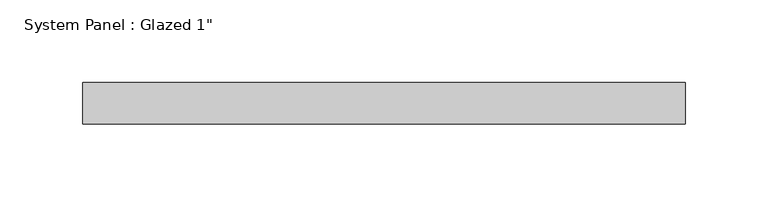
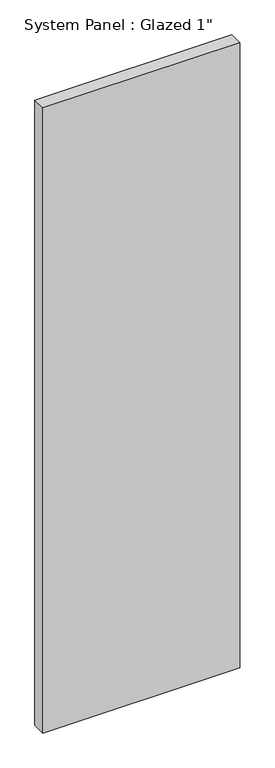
"""IFC4 building model written with IfcOpenShell, lengths in millimetres: plate geometry."""

from ifc_helpers import new_model, si_unit, origin, origin_with_axes, place, context, project, spatial, polyline, outline, extrude, source, transform, mapped, element, save


def plate_85dd41af(model_context):
    return source(origin(), model_context, "Body", "SweptSolid", [
        extrude(outline(polyline([(182.5625, 12.7), (-182.5625, 12.7), (-182.5625, 38.1), (182.5625, 38.1), (182.5625, 12.7)])), origin_with_axes(), (0.0, 0.0, 1.0), 1226.3800169),
    ])


if __name__ == "__main__":
    model = new_model("IFC4")
    model_context = context("Model", 3, world=origin())
    ifc_project = project(units=[si_unit("LENGTHUNIT", "METRE", prefix="MILLI")], contexts=[model_context])
    site = spatial("IfcSite", under=ifc_project)
    building = spatial("IfcBuilding", under=site)
    placement = place(None, origin())
    plate_shape = plate_85dd41af(model_context)
    element("IfcPlate", 1, ObjectType="System Panel : Glazed 1\"", at=placement, inside=building, context=model_context, shape_type="MappedRepresentation", body=[
        mapped(plate_shape, transform((0.0, 0.0, 0.0), x_axis=(1.0, 0.0, 0.0), y_axis=(0.0, 1.0, 0.0), z_axis=(0.0, 0.0, 1.0))),
    ])
    save(model, "model.ifc")
